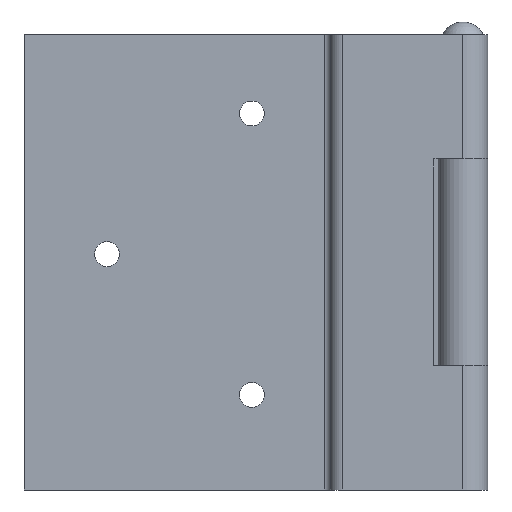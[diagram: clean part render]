
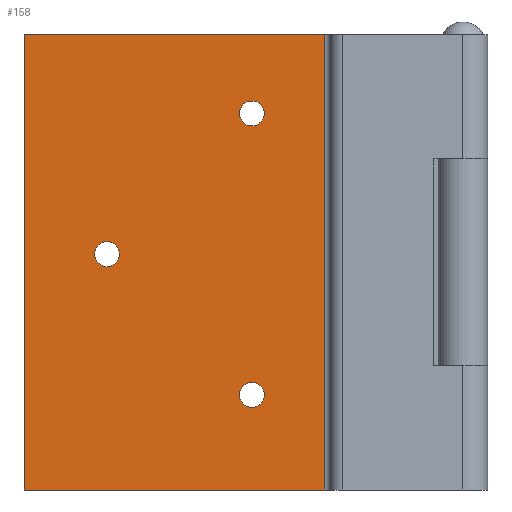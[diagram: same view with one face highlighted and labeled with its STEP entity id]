
A CAD part, front view. The second image highlights one B-rep face of the part: STEP entity #158.
In plain terms, the highlighted planar face has unit normal (0, -1, 0).
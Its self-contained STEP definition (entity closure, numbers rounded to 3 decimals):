
#158=ADVANCED_FACE('',(#264,#265,#266,#267),#268,.T.);
#264=FACE_BOUND('',#409,.T.);
#265=FACE_BOUND('',#410,.T.);
#266=FACE_BOUND('',#411,.T.);
#267=FACE_OUTER_BOUND('',#412,.T.);
#268=PLANE('',#413);
#409=EDGE_LOOP('',(#760,#761));
#410=EDGE_LOOP('',(#762,#763));
#411=EDGE_LOOP('',(#764,#765));
#412=EDGE_LOOP('',(#766,#767,#768,#769));
#413=AXIS2_PLACEMENT_3D('',#770,#771,#772);
#760=ORIENTED_EDGE('',*,*,#1105,.T.);
#761=ORIENTED_EDGE('',*,*,#1101,.T.);
#762=ORIENTED_EDGE('',*,*,#1107,.T.);
#763=ORIENTED_EDGE('',*,*,#1097,.T.);
#764=ORIENTED_EDGE('',*,*,#1109,.T.);
#765=ORIENTED_EDGE('',*,*,#1093,.T.);
#766=ORIENTED_EDGE('',*,*,#1169,.T.);
#767=ORIENTED_EDGE('',*,*,#1170,.F.);
#768=ORIENTED_EDGE('',*,*,#1171,.F.);
#769=ORIENTED_EDGE('',*,*,#1167,.T.);
#770=CARTESIAN_POINT('',(-34.875,10.5,0.));
#771=DIRECTION('',(0.,-1.0,0.));
#772=DIRECTION('',(-1.0,0.,0.));
#1093=EDGE_CURVE('',#1313,#1310,#1314,.T.);
#1097=EDGE_CURVE('',#1321,#1318,#1322,.T.);
#1101=EDGE_CURVE('',#1329,#1326,#1330,.T.);
#1105=EDGE_CURVE('',#1326,#1329,#1335,.T.);
#1107=EDGE_CURVE('',#1318,#1321,#1337,.T.);
#1109=EDGE_CURVE('',#1310,#1313,#1339,.T.);
#1167=EDGE_CURVE('',#1428,#1426,#1429,.T.);
#1169=EDGE_CURVE('',#1426,#1431,#1432,.T.);
#1170=EDGE_CURVE('',#1433,#1431,#1434,.T.);
#1171=EDGE_CURVE('',#1428,#1433,#1435,.T.);
#1310=VERTEX_POINT('',#1640);
#1313=VERTEX_POINT('',#1644);
#1314=CIRCLE('',#1645,1.5);
#1318=VERTEX_POINT('',#1650);
#1321=VERTEX_POINT('',#1654);
#1322=CIRCLE('',#1655,1.5);
#1326=VERTEX_POINT('',#1660);
#1329=VERTEX_POINT('',#1664);
#1330=CIRCLE('',#1665,1.5);
#1335=CIRCLE('',#1671,1.5);
#1337=CIRCLE('',#1673,1.5);
#1339=CIRCLE('',#1675,1.5);
#1426=VERTEX_POINT('',#1804);
#1428=VERTEX_POINT('',#1807);
#1429=LINE('',#1808,#1809);
#1431=VERTEX_POINT('',#1812);
#1432=LINE('',#1813,#1814);
#1433=VERTEX_POINT('',#1815);
#1434=LINE('',#1816,#1817);
#1435=LINE('',#1818,#1819);
#1640=CARTESIAN_POINT('',(-27.0,10.5,-9.5));
#1644=CARTESIAN_POINT('',(-24.0,10.5,-9.5));
#1645=AXIS2_PLACEMENT_3D('',#2054,#2055,#2056);
#1650=CARTESIAN_POINT('',(-27.0,10.5,-43.5));
#1654=CARTESIAN_POINT('',(-24.0,10.5,-43.5));
#1655=AXIS2_PLACEMENT_3D('',#2062,#2063,#2064);
#1660=CARTESIAN_POINT('',(-44.5,10.5,-26.5));
#1664=CARTESIAN_POINT('',(-41.5,10.5,-26.5));
#1665=AXIS2_PLACEMENT_3D('',#2070,#2071,#2072);
#1671=AXIS2_PLACEMENT_3D('',#2080,#2081,#2082);
#1673=AXIS2_PLACEMENT_3D('',#2086,#2087,#2088);
#1675=AXIS2_PLACEMENT_3D('',#2092,#2093,#2094);
#1804=CARTESIAN_POINT('',(-53.0,10.5,-55.0));
#1807=CARTESIAN_POINT('',(-53.0,10.5,0.));
#1808=CARTESIAN_POINT('',(-53.0,10.5,0.));
#1809=VECTOR('',#2180,1.0);
#1812=CARTESIAN_POINT('',(-16.75,10.5,-55.0));
#1813=CARTESIAN_POINT('',(-53.0,10.5,-55.0));
#1814=VECTOR('',#2182,1.0);
#1815=CARTESIAN_POINT('',(-16.75,10.5,0.));
#1816=CARTESIAN_POINT('',(-16.75,10.5,0.));
#1817=VECTOR('',#2183,1.0);
#1818=CARTESIAN_POINT('',(-53.0,10.5,0.));
#1819=VECTOR('',#2184,1.0);
#2054=CARTESIAN_POINT('',(-25.5,10.5,-9.5));
#2055=DIRECTION('',(0.,1.0,0.));
#2056=DIRECTION('',(-1.0,0.,0.));
#2062=CARTESIAN_POINT('',(-25.5,10.5,-43.5));
#2063=DIRECTION('',(0.,1.0,0.));
#2064=DIRECTION('',(-1.0,0.,0.));
#2070=CARTESIAN_POINT('',(-43.0,10.5,-26.5));
#2071=DIRECTION('',(0.,1.0,0.));
#2072=DIRECTION('',(-1.0,0.,0.));
#2080=CARTESIAN_POINT('',(-43.0,10.5,-26.5));
#2081=DIRECTION('',(0.,1.0,0.));
#2082=DIRECTION('',(-1.0,0.,0.));
#2086=CARTESIAN_POINT('',(-25.5,10.5,-43.5));
#2087=DIRECTION('',(0.,1.0,0.));
#2088=DIRECTION('',(-1.0,0.,0.));
#2092=CARTESIAN_POINT('',(-25.5,10.5,-9.5));
#2093=DIRECTION('',(0.,1.0,0.));
#2094=DIRECTION('',(-1.0,0.,0.));
#2180=DIRECTION('',(0.,0.0,-1.0));
#2182=DIRECTION('',(1.0,0.,0.));
#2183=DIRECTION('',(0.,0.0,-1.0));
#2184=DIRECTION('',(1.0,0.,0.));
